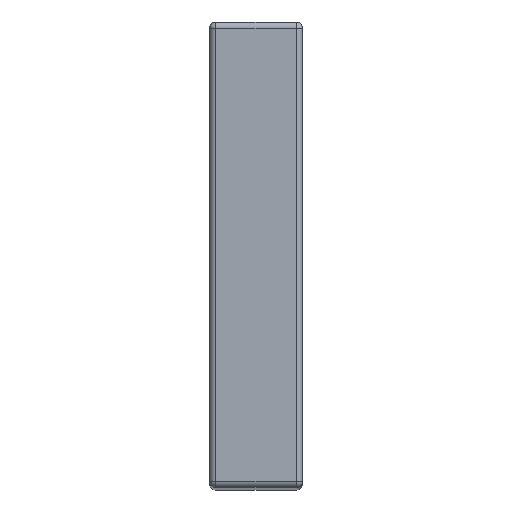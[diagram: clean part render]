
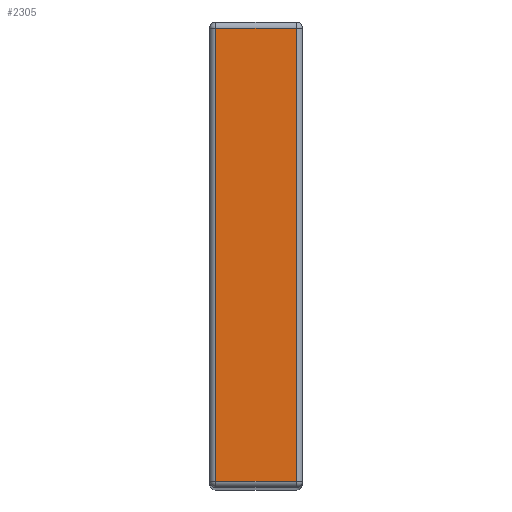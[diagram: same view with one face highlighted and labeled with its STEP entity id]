
A CAD part, top view. The second image highlights one B-rep face of the part: STEP entity #2305.
In plain terms, the highlighted planar face has unit normal (0, 0, 1).
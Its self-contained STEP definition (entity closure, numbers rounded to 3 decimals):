
#1 = VERTEX_POINT ( 'NONE', #1796 ) ;
#72 = EDGE_CURVE ( 'NONE', #3332, #1441, #1484, .T. ) ;
#86 = LINE ( 'NONE', #2505, #994 ) ;
#485 = ORIENTED_EDGE ( 'NONE', *, *, #1231, .T. ) ;
#515 = VECTOR ( 'NONE', #1520, 1000. ) ;
#518 = ORIENTED_EDGE ( 'NONE', *, *, #1357, .T. ) ;
#562 = VECTOR ( 'NONE', #1079, 1000. ) ;
#671 = CARTESIAN_POINT ( 'NONE',  ( 13., 73., 480. ) ) ;
#910 = EDGE_LOOP ( 'NONE', ( #2536, #518, #2053, #485 ) ) ;
#944 = CARTESIAN_POINT ( 'NONE',  ( -15., 73., 480. ) ) ;
#994 = VECTOR ( 'NONE', #3306, 1000. ) ;
#1079 = DIRECTION ( 'NONE',  ( 0., 1., 0. ) ) ;
#1231 = EDGE_CURVE ( 'NONE', #3247, #3332, #1632, .T. ) ;
#1246 = DIRECTION ( 'NONE',  ( 0., 0., 1. ) ) ;
#1286 = VECTOR ( 'NONE', #1791, 1000. ) ;
#1357 = EDGE_CURVE ( 'NONE', #1441, #1, #86, .T. ) ;
#1411 = CARTESIAN_POINT ( 'NONE',  ( 13., -73., 480. ) ) ;
#1441 = VERTEX_POINT ( 'NONE', #1468 ) ;
#1468 = CARTESIAN_POINT ( 'NONE',  ( -13., 73., 480. ) ) ;
#1484 = LINE ( 'NONE', #944, #515 ) ;
#1520 = DIRECTION ( 'NONE',  ( -1., 0., 0. ) ) ;
#1522 = PLANE ( 'NONE',  #2936 ) ;
#1561 = LINE ( 'NONE', #1573, #1286 ) ;
#1573 = CARTESIAN_POINT ( 'NONE',  ( -15., -73., 480. ) ) ;
#1632 = LINE ( 'NONE', #3531, #562 ) ;
#1791 = DIRECTION ( 'NONE',  ( 1., 0., 0. ) ) ;
#1796 = CARTESIAN_POINT ( 'NONE',  ( -13., -73., 480. ) ) ;
#1798 = FACE_OUTER_BOUND ( 'NONE', #910, .T. ) ;
#2053 = ORIENTED_EDGE ( 'NONE', *, *, #2939, .T. ) ;
#2305 = ADVANCED_FACE ( 'NONE', ( #1798 ), #1522, .T. ) ;
#2344 = DIRECTION ( 'NONE',  ( 1., 0., 0. ) ) ;
#2505 = CARTESIAN_POINT ( 'NONE',  ( -13., -73., 480. ) ) ;
#2536 = ORIENTED_EDGE ( 'NONE', *, *, #72, .T. ) ;
#2609 = CARTESIAN_POINT ( 'NONE',  ( -15., 75., 480. ) ) ;
#2936 = AXIS2_PLACEMENT_3D ( 'NONE', #2609, #1246, #2344 ) ;
#2939 = EDGE_CURVE ( 'NONE', #1, #3247, #1561, .T. ) ;
#3247 = VERTEX_POINT ( 'NONE', #1411 ) ;
#3306 = DIRECTION ( 'NONE',  ( 0., -1., 0. ) ) ;
#3332 = VERTEX_POINT ( 'NONE', #671 ) ;
#3531 = CARTESIAN_POINT ( 'NONE',  ( 13., 75., 480. ) ) ;
